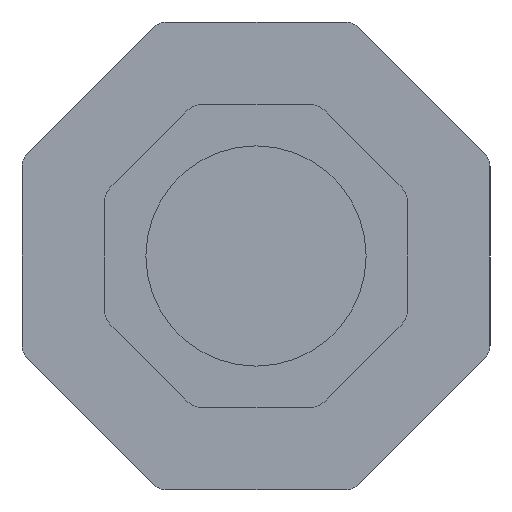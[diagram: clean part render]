
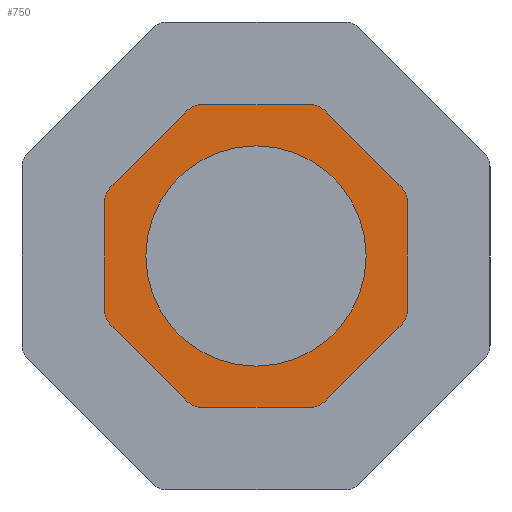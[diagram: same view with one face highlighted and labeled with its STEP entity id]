
A CAD part, left-side view. The second image highlights one B-rep face of the part: STEP entity #750.
In plain terms, the highlighted planar face has unit normal (-1, 0, 0).
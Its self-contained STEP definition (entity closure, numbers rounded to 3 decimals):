
#750=ADVANCED_FACE('',(#1643,#1645),#1647,.T.);
#1643=FACE_BOUND('',#1644,.T.);
#1644=EDGE_LOOP('',(#2387,#2388,#2389,#2390,#2391,#2392,#2393,#2394,#2395,#2396,
#2397,#2398,#2399,#2400,#2401,#2402));
#1645=FACE_BOUND('',#1646,.T.);
#1646=EDGE_LOOP('',(#2403));
#1647=PLANE('',#1648);
#1648=AXIS2_PLACEMENT_3D('',#1649,#1650,#1651);
#1649=CARTESIAN_POINT('',(1949.254,1854.902,0.));
#1650=DIRECTION('',(-1.,0.,0.));
#1651=DIRECTION('',(0.,0.,1.));
#2387=ORIENTED_EDGE('',*,*,#2803,.F.);
#2388=ORIENTED_EDGE('',*,*,#2808,.T.);
#2389=ORIENTED_EDGE('',*,*,#2809,.F.);
#2390=ORIENTED_EDGE('',*,*,#2810,.T.);
#2391=ORIENTED_EDGE('',*,*,#2811,.F.);
#2392=ORIENTED_EDGE('',*,*,#2812,.T.);
#2393=ORIENTED_EDGE('',*,*,#2813,.F.);
#2394=ORIENTED_EDGE('',*,*,#2814,.T.);
#2395=ORIENTED_EDGE('',*,*,#2815,.F.);
#2396=ORIENTED_EDGE('',*,*,#2816,.T.);
#2397=ORIENTED_EDGE('',*,*,#2817,.F.);
#2398=ORIENTED_EDGE('',*,*,#2818,.T.);
#2399=ORIENTED_EDGE('',*,*,#2819,.F.);
#2400=ORIENTED_EDGE('',*,*,#2820,.T.);
#2401=ORIENTED_EDGE('',*,*,#2821,.F.);
#2402=ORIENTED_EDGE('',*,*,#2806,.T.);
#2403=ORIENTED_EDGE('',*,*,#2822,.T.);
#2803=EDGE_CURVE('',#3294,#3295,#3296,.T.);
#2806=EDGE_CURVE('',#3299,#3295,#3300,.T.);
#2808=EDGE_CURVE('',#3294,#3302,#3303,.T.);
#2809=EDGE_CURVE('',#3304,#3302,#3305,.T.);
#2810=EDGE_CURVE('',#3304,#3306,#3307,.T.);
#2811=EDGE_CURVE('',#3308,#3306,#3309,.T.);
#2812=EDGE_CURVE('',#3308,#3310,#3311,.T.);
#2813=EDGE_CURVE('',#3312,#3310,#3313,.T.);
#2814=EDGE_CURVE('',#3312,#3314,#3315,.T.);
#2815=EDGE_CURVE('',#3316,#3314,#3317,.T.);
#2816=EDGE_CURVE('',#3316,#3318,#3319,.T.);
#2817=EDGE_CURVE('',#3320,#3318,#3321,.T.);
#2818=EDGE_CURVE('',#3320,#3322,#3323,.T.);
#2819=EDGE_CURVE('',#3324,#3322,#3325,.T.);
#2820=EDGE_CURVE('',#3324,#3326,#3327,.T.);
#2821=EDGE_CURVE('',#3299,#3326,#3328,.T.);
#2822=EDGE_CURVE('',#3329,#3329,#3330,.T.);
#3294=VERTEX_POINT('',#4433);
#3295=VERTEX_POINT('',#4434);
#3296=CIRCLE('',#4435,2.);
#3299=VERTEX_POINT('',#4445);
#3300=LINE('',#4446,#4447);
#3302=VERTEX_POINT('',#4452);
#3303=LINE('',#4453,#4454);
#3304=VERTEX_POINT('',#4456);
#3305=CIRCLE('',#4457,2.);
#3306=VERTEX_POINT('',#4461);
#3307=LINE('',#4462,#4463);
#3308=VERTEX_POINT('',#4465);
#3309=CIRCLE('',#4466,2.);
#3310=VERTEX_POINT('',#4470);
#3311=LINE('',#4471,#4472);
#3312=VERTEX_POINT('',#4474);
#3313=CIRCLE('',#4475,2.);
#3314=VERTEX_POINT('',#4479);
#3315=LINE('',#4480,#4481);
#3316=VERTEX_POINT('',#4483);
#3317=CIRCLE('',#4484,2.);
#3318=VERTEX_POINT('',#4488);
#3319=LINE('',#4489,#4490);
#3320=VERTEX_POINT('',#4492);
#3321=CIRCLE('',#4493,2.);
#3322=VERTEX_POINT('',#4497);
#3323=LINE('',#4498,#4499);
#3324=VERTEX_POINT('',#4501);
#3325=CIRCLE('',#4502,2.);
#3326=VERTEX_POINT('',#4506);
#3327=LINE('',#4507,#4508);
#3328=CIRCLE('',#4510,2.);
#3329=VERTEX_POINT('',#4514);
#3330=CIRCLE('',#4515,12.);
#4433=CARTESIAN_POINT('',(1949.254,1838.402,-6.006));
#4434=CARTESIAN_POINT('',(1949.254,1838.988,-7.42));
#4435=AXIS2_PLACEMENT_3D('',#4436,#4437,#4438);
#4436=CARTESIAN_POINT('',(1949.254,1840.402,-6.006));
#4437=DIRECTION('',(1.,0.,0.));
#4438=DIRECTION('',(0.,-1.,0.));
#4445=CARTESIAN_POINT('',(1949.254,1847.482,-15.914));
#4446=CARTESIAN_POINT('',(1949.254,1847.482,-15.914));
#4447=VECTOR('',#4448,1.);
#4448=DIRECTION('',(0.,-0.707,0.707));
#4452=CARTESIAN_POINT('',(1949.254,1838.402,6.006));
#4453=CARTESIAN_POINT('',(1949.254,1838.402,-6.006));
#4454=VECTOR('',#4455,1.);
#4455=DIRECTION('',(0.,0.,1.));
#4456=CARTESIAN_POINT('',(1949.254,1838.988,7.42));
#4457=AXIS2_PLACEMENT_3D('',#4458,#4459,#4460);
#4458=CARTESIAN_POINT('',(1949.254,1840.402,6.006));
#4459=DIRECTION('',(1.,0.,0.));
#4460=DIRECTION('',(0.,-0.707,0.707));
#4461=CARTESIAN_POINT('',(1949.254,1847.482,15.914));
#4462=CARTESIAN_POINT('',(1949.254,1838.988,7.42));
#4463=VECTOR('',#4464,1.);
#4464=DIRECTION('',(0.,0.707,0.707));
#4465=CARTESIAN_POINT('',(1949.254,1848.896,16.5));
#4466=AXIS2_PLACEMENT_3D('',#4467,#4468,#4469);
#4467=CARTESIAN_POINT('',(1949.254,1848.896,14.5));
#4468=DIRECTION('',(1.,0.,0.));
#4469=DIRECTION('',(0.,0.,1.));
#4470=CARTESIAN_POINT('',(1949.254,1860.908,16.5));
#4471=CARTESIAN_POINT('',(1949.254,1848.896,16.5));
#4472=VECTOR('',#4473,1.);
#4473=DIRECTION('',(0.,1.,0.));
#4474=CARTESIAN_POINT('',(1949.254,1862.323,15.914));
#4475=AXIS2_PLACEMENT_3D('',#4476,#4477,#4478);
#4476=CARTESIAN_POINT('',(1949.254,1860.908,14.5));
#4477=DIRECTION('',(1.,0.,0.));
#4478=DIRECTION('',(0.,0.707,0.707));
#4479=CARTESIAN_POINT('',(1949.254,1870.817,7.42));
#4480=CARTESIAN_POINT('',(1949.254,1862.323,15.914));
#4481=VECTOR('',#4482,1.);
#4482=DIRECTION('',(0.,0.707,-0.707));
#4483=CARTESIAN_POINT('',(1949.254,1871.402,6.006));
#4484=AXIS2_PLACEMENT_3D('',#4485,#4486,#4487);
#4485=CARTESIAN_POINT('',(1949.254,1869.402,6.006));
#4486=DIRECTION('',(1.,0.,0.));
#4487=DIRECTION('',(0.,1.,0.));
#4488=CARTESIAN_POINT('',(1949.254,1871.402,-6.006));
#4489=CARTESIAN_POINT('',(1949.254,1871.402,6.006));
#4490=VECTOR('',#4491,1.);
#4491=DIRECTION('',(0.,0.,-1.));
#4492=CARTESIAN_POINT('',(1949.254,1870.817,-7.42));
#4493=AXIS2_PLACEMENT_3D('',#4494,#4495,#4496);
#4494=CARTESIAN_POINT('',(1949.254,1869.402,-6.006));
#4495=DIRECTION('',(1.,0.,0.));
#4496=DIRECTION('',(0.,0.707,-0.707));
#4497=CARTESIAN_POINT('',(1949.254,1862.323,-15.914));
#4498=CARTESIAN_POINT('',(1949.254,1870.817,-7.42));
#4499=VECTOR('',#4500,1.);
#4500=DIRECTION('',(0.,-0.707,-0.707));
#4501=CARTESIAN_POINT('',(1949.254,1860.908,-16.5));
#4502=AXIS2_PLACEMENT_3D('',#4503,#4504,#4505);
#4503=CARTESIAN_POINT('',(1949.254,1860.908,-14.5));
#4504=DIRECTION('',(1.,0.,0.));
#4505=DIRECTION('',(0.,0.,-1.));
#4506=CARTESIAN_POINT('',(1949.254,1848.896,-16.5));
#4507=CARTESIAN_POINT('',(1949.254,1860.908,-16.5));
#4508=VECTOR('',#4509,1.);
#4509=DIRECTION('',(0.,-1.,0.));
#4510=AXIS2_PLACEMENT_3D('',#4511,#4512,#4513);
#4511=CARTESIAN_POINT('',(1949.254,1848.896,-14.5));
#4512=DIRECTION('',(1.,0.,0.));
#4513=DIRECTION('',(0.,-0.707,-0.707));
#4514=CARTESIAN_POINT('',(1949.254,1842.902,0.));
#4515=AXIS2_PLACEMENT_3D('',#4516,#4517,#4518);
#4516=CARTESIAN_POINT('',(1949.254,1854.902,0.));
#4517=DIRECTION('',(1.,0.,0.));
#4518=DIRECTION('',(0.,-1.,0.));
